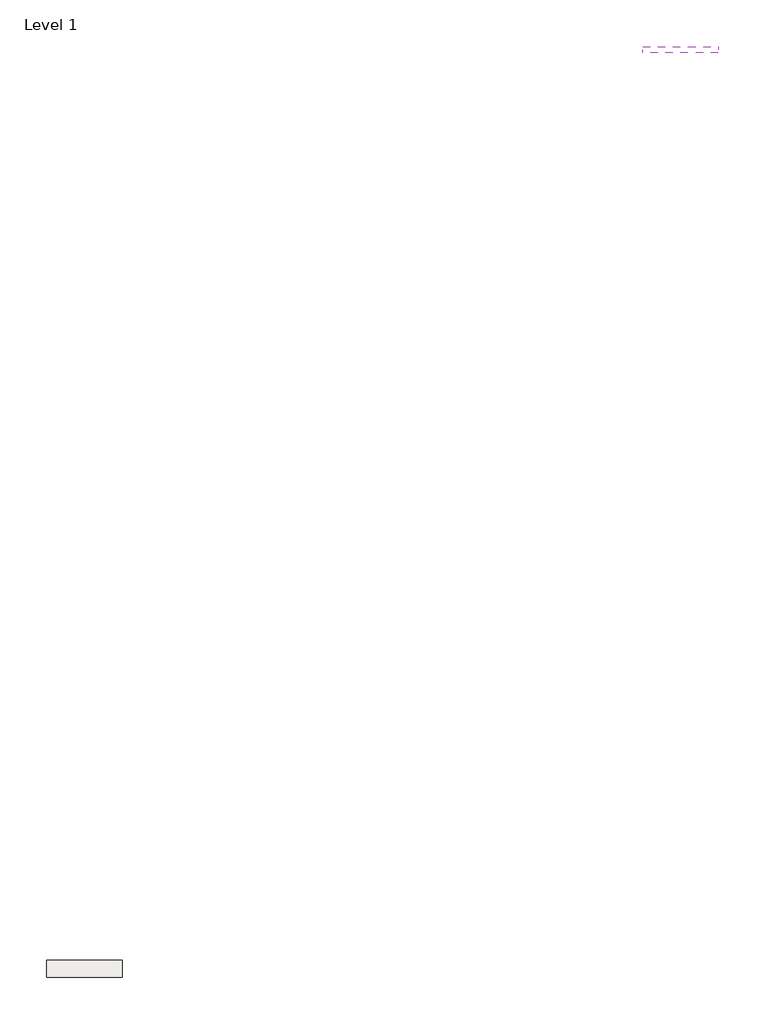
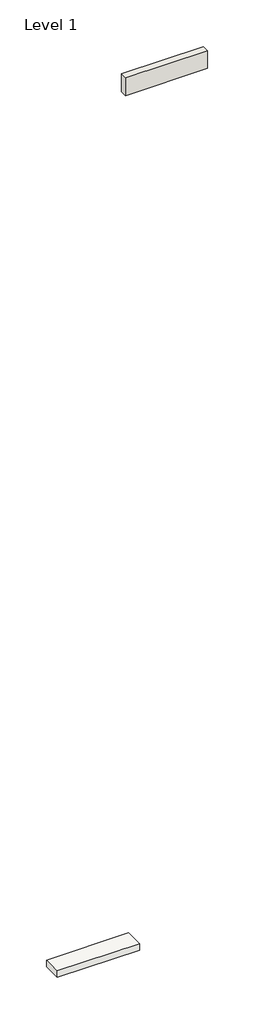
# One storey: 1 roof, 1 wall.
"""IFC4 building model written with IfcOpenShell, lengths in millimetres."""

import ifcopenshell
import ifcopenshell.guid

model = None  # the IFC model being written
_history = None  # IfcOwnerHistory: only IFC2X3 demands one
_inside = {}  # id of a spatial element -> (the spatial element, [elements in it])
_under = {}  # id of a project, library or spatial element -> (it, [spatial elements below it])
_declared = {}  # id of a project -> (the project, [libraries it declares])
_typed = {}  # id of a type object -> (the type object, [elements of that type])
_made_of = {}  # id of a material, layer set ... -> (it, [elements and type objects made of it])


def new_model(schema):
    """Start an empty IFC model of exactly this schema.

    Asked for "IFC4X3", IfcOpenShell would pick the latest addendum, in which some entities
    have other attributes; the version numbers below select the first issue.
    IFC2X3 requires an IfcOwnerHistory on every rooted entity: one is made here for all.
    """
    global model, _history
    if schema == "IFC4X3":
        model = ifcopenshell.file(schema_version=(4, 3, 0, 0))
    else:
        model = ifcopenshell.file(schema=schema)
    _inside.clear()
    _under.clear()
    _declared.clear()
    _typed.clear()
    _made_of.clear()
    _history = None
    if model.schema == "IFC2X3":
        org = make("IfcOrganization", Name="unknown")
        user = make(
            "IfcPersonAndOrganization",
            ThePerson=make("IfcPerson", FamilyName="unknown"),
            TheOrganization=org,
        )
        app = make(
            "IfcApplication",
            ApplicationDeveloper=org,
            Version="unknown",
            ApplicationFullName="unknown",
            ApplicationIdentifier="unknown",
        )
        _history = make(
            "IfcOwnerHistory",
            OwningUser=user,
            OwningApplication=app,
            ChangeAction="ADDED",
            CreationDate=0,
        )
    return model


def make(cls, **values):
    """One entity of the class cls with the attributes given. An attribute that is None is left unset."""
    return model.create_entity(
        cls, **{name: value for name, value in values.items() if value is not None}
    )


def rooted(cls, **values):
    """An entity with a GlobalId (a new one), such as an element, a storey or a relation."""
    return make(cls, GlobalId=ifcopenshell.guid.new(), OwnerHistory=_history, **values)


def si_unit(unit_type, name, prefix=None):
    """IfcSIUnit, for example si_unit("LENGTHUNIT", "METRE", prefix="MILLI")."""
    return make("IfcSIUnit", UnitType=unit_type, Prefix=prefix, Name=name)


def assignment(units):
    """IfcUnitAssignment: the units of a project."""
    return None if units is None else make("IfcUnitAssignment", Units=units)


def point(xyz):
    """IfcCartesianPoint."""
    return None if xyz is None else make("IfcCartesianPoint", Coordinates=xyz)


def direction(xyz):
    """IfcDirection."""
    return None if xyz is None else make("IfcDirection", DirectionRatios=xyz)


def frame(location, z_axis=None, x_axis=None):
    """IfcAxis2Placement3D, a coordinate frame: its origin and axes. An axis left out is left unset."""
    return make(
        "IfcAxis2Placement3D",
        Location=point(location),
        Axis=direction(z_axis),
        RefDirection=direction(x_axis),
    )


def origin():
    """The frame at (0, 0, 0) with its axes left unset."""
    return frame((0.0, 0.0, 0.0))


def origin_with_axes():
    """The frame at (0, 0, 0) with the z axis (0, 0, 1) and the x axis (1, 0, 0) written out."""
    return frame((0.0, 0.0, 0.0), z_axis=(0.0, 0.0, 1.0), x_axis=(1.0, 0.0, 0.0))


def place(relative_to, where):
    """IfcLocalPlacement: puts the frame where relative to a parent placement (None: the world)."""
    return make(
        "IfcLocalPlacement", PlacementRelTo=relative_to, RelativePlacement=where
    )


def context(
    kind, dimensions, precision=None, world=None, true_north=None, identifier=None
):
    """IfcGeometricRepresentationContext, for example the 3D "Model" context."""
    return make(
        "IfcGeometricRepresentationContext",
        ContextIdentifier=identifier,
        ContextType=kind,
        CoordinateSpaceDimension=dimensions,
        Precision=precision,
        WorldCoordinateSystem=world,
        TrueNorth=true_north,
    )


def project(units=None, contexts=None):
    """IfcProject with its units and contexts."""
    return rooted(
        "IfcProject",
        Name="project",
        RepresentationContexts=contexts,
        UnitsInContext=assignment(units),
    )


def spatial(cls, under=None, at=None, **own):
    """A site, building, storey or space (cls), placed at a placement, below another one or the project."""
    s = rooted(cls, ObjectPlacement=at, **own)
    if under is not None:
        _under.setdefault(under.id(), (under, []))[1].append(s)
    return s


def polyline(points):
    """IfcPolyline through the points."""
    return make("IfcPolyline", Points=[point(p) for p in points])


def outline(outer, holes=None, kind="AREA"):
    """IfcArbitraryClosedProfileDef: a profile drawn as a closed curve; with holes, ...WithVoids."""
    if holes is None:
        return make("IfcArbitraryClosedProfileDef", ProfileType=kind, OuterCurve=outer)
    return make(
        "IfcArbitraryProfileDefWithVoids",
        ProfileType=kind,
        OuterCurve=outer,
        InnerCurves=holes,
    )


def extrude(swept, where, along, depth):
    """IfcExtrudedAreaSolid: the profile swept, set in the frame where, extruded along a direction by depth."""
    return make(
        "IfcExtrudedAreaSolid",
        SweptArea=swept,
        Position=where,
        ExtrudedDirection=direction(along),
        Depth=depth,
    )


def shape(context_of_items, identifier, shape_type, items):
    """IfcShapeRepresentation: the items that make up one representation, for example the "Body"."""
    return make(
        "IfcShapeRepresentation",
        ContextOfItems=context_of_items,
        RepresentationIdentifier=identifier,
        RepresentationType=shape_type,
        Items=items,
    )


def made_of(thing, what):
    """Note that an element or type object is made of a material, layer set ...; save() writes the relation."""
    if what is not None:
        _made_of.setdefault(what.id(), (what, []))[1].append(thing)
    return thing


def element(
    cls,
    number,
    at=None,
    inside=None,
    cuts=None,
    type_object=None,
    material=None,
    context=None,
    identifier="Body",
    shape_type=None,
    held_by="IfcProductDefinitionShape",
    body=None,
    shapes=None,
    **own,
):
    """One element of the class cls, such as IfcWall. Its Tag is "e" and its number.

    at: its placement. inside: the storey or other place that contains it. cuts: it is an
    opening in that element (IfcRelVoidsElement). A single representation is given by context,
    identifier, shape_type and body (its items); several are given by shapes. held_by: the class
    of the entity that holds the representations. save() writes the other relations.
    """
    e = rooted(cls, Tag="e%d" % number, ObjectPlacement=at, **own)
    if body is not None:
        shapes = [shape(context, identifier, shape_type, body)]
    if shapes is not None:
        e.Representation = make(held_by, Representations=shapes)
    if inside is not None:
        _inside.setdefault(inside.id(), (inside, []))[1].append(e)
    if cuts is not None:
        rooted(
            "IfcRelVoidsElement", RelatingBuildingElement=cuts, RelatedOpeningElement=e
        )
    if type_object is not None:
        _typed.setdefault(type_object.id(), (type_object, []))[1].append(e)
    return made_of(e, material)


def aggregate(whole, parts):
    """IfcRelAggregates: a whole, such as a stair, and the parts it consists of."""
    return rooted("IfcRelAggregates", RelatingObject=whole, RelatedObjects=parts)


def save(model, path):
    """Write the relations noted so far, then the file.

    IfcRelAggregates (storeys below a building ...), IfcRelContainedInSpatialStructure (elements
    in a storey), IfcRelDefinesByType, IfcRelAssociatesMaterial and IfcRelDeclares: one each for
    every whole, place, type object, material and project.
    """
    for whole, parts in _under.values():
        aggregate(whole, parts)
    for where, things in _inside.values():
        rooted(
            "IfcRelContainedInSpatialStructure",
            RelatedElements=things,
            RelatingStructure=where,
        )
    for kind, things in _typed.values():
        rooted("IfcRelDefinesByType", RelatedObjects=things, RelatingType=kind)
    for what, things in _made_of.values():
        rooted("IfcRelAssociatesMaterial", RelatedObjects=things, RelatingMaterial=what)
    for by, libraries in _declared.values():
        rooted("IfcRelDeclares", RelatingContext=by, RelatedDefinitions=libraries)
    model.write(path)


model = new_model("IFC4")

# Units and contexts
model_context = context("Model", 3, world=origin())
ifc_project = project(units=[si_unit("LENGTHUNIT", "METRE", prefix="MILLI")], contexts=[model_context])

# Site, building, storey
site = spatial("IfcSite", under=ifc_project)
building = spatial("IfcBuilding", under=site)
storey = spatial("IfcBuildingStorey", under=building, Name="Level 1", Elevation=0.0)

# Roof
placement = place(None, origin())
element("IfcRoof", 1, ObjectType="Panel Thermochip ROOF-COAT PLANA cubierta plana (2400x550) 2", at=placement, inside=storey, context=model_context, shape_type="SweptSolid", body=[
    extrude(outline(polyline([(-17878.9678788, -3500.1776121), (-15478.9678788, -3500.1776121), (-15478.9678788, -4050.1776121), (-17878.9678788, -4050.1776121), (-17878.9678788, -3500.1776121)])), origin_with_axes(), (0.0, 0.0, 1.0), 202.5),
])

# Wall
element("IfcWall", 2, ObjectType="Construction_Thermochip_SATE-COAT (2400 X 550)", at=placement, inside=storey, context=model_context, shape_type="SweptSolid", body=[
    extrude(outline(polyline([(3473.228299, 25318.1253634), (1073.228299, 25318.1253634), (1073.228299, 25520.6253634), (3473.228299, 25520.6253634), (3473.228299, 25318.1253634)])), frame((0.0, 0.0, 2800.0), z_axis=(0.0, 0.0, 1.0), x_axis=(1.0, 0.0, 0.0)), (0.0, 0.0, 1.0), 550.0),
])

save(model, "model.ifc")
